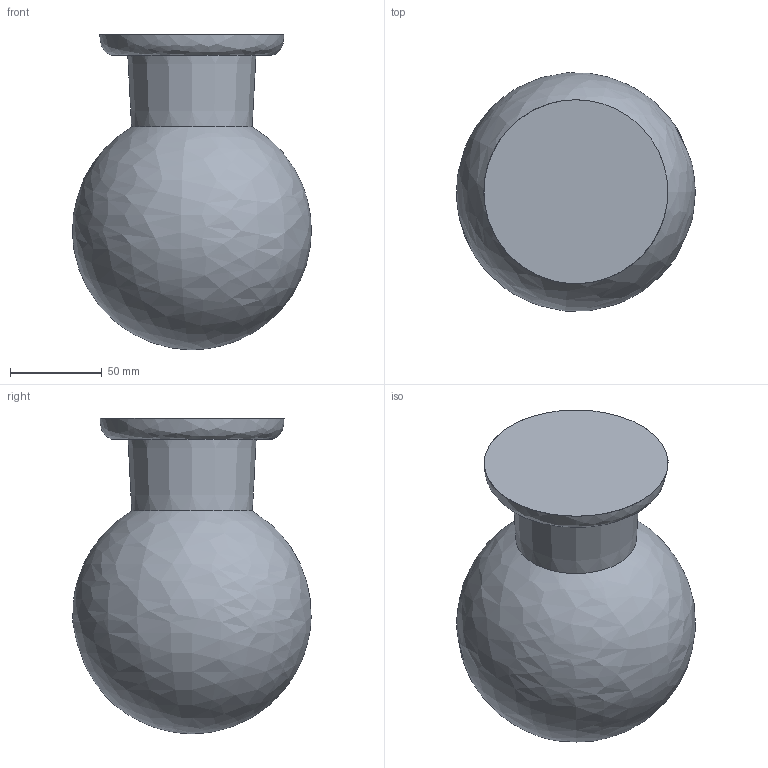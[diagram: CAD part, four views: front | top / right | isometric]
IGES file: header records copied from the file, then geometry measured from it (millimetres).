
Global section: file name: /Users/064_p/Desktop/3d data for homepage/DUMBO13 C&W.igs; native system: Rhinoceros ( Jul  7 2025 ); preprocessor: Trout Lake IGES 012 Jul  7 2025; date: 260805.080118; units: millimetre
Bounding box: 129.84 x 129.55 x 171.46 mm (x, y, z)
Surface area: 73166.7 mm2 (no closed solid volume)
Topology: 0 solids, 0 shells, 4 faces, 13 edges, 10 vertices
Faces by surface type: bspline 4
